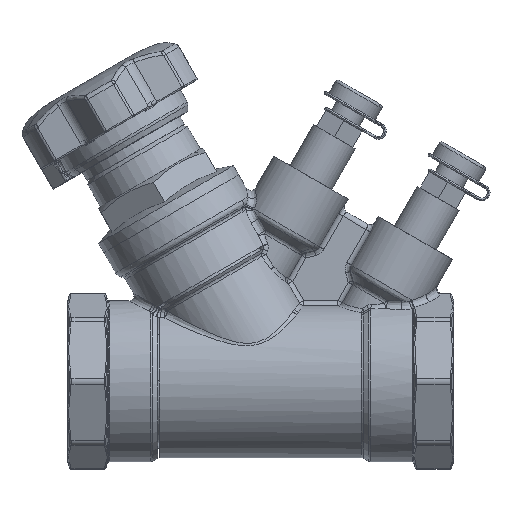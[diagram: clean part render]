
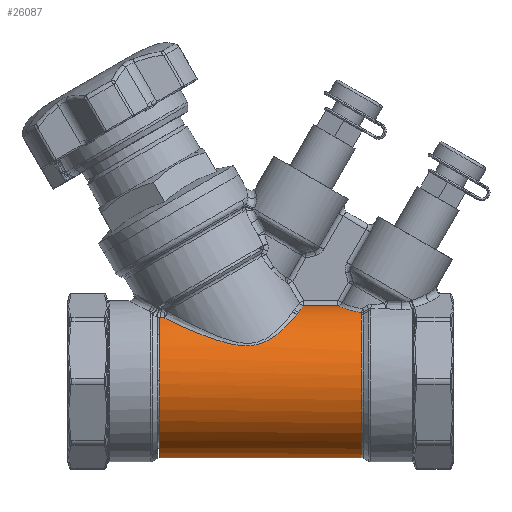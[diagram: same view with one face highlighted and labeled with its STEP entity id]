
A CAD part, left-side view. The second image highlights one B-rep face of the part: STEP entity #26087.
In plain terms, the highlighted cylindrical face has radius 28.5 mm (diameter 57 mm), a partial arc.
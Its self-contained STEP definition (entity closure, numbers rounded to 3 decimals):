
#645 = AXIS2_PLACEMENT_3D ( 'NONE', #33581, #792, #39078 ) ;
#792 = DIRECTION ( 'NONE',  ( 0., 1., 0. ) ) ;
#1673 = ORIENTED_EDGE ( 'NONE', *, *, #36629, .F. ) ;
#2476 = CARTESIAN_POINT ( 'NONE',  ( -24.157, 87.972, 15.174 ) ) ;
#2708 = CARTESIAN_POINT ( 'NONE',  ( -16.668, 60.019, 23.213 ) ) ;
#4627 = FACE_OUTER_BOUND ( 'NONE', #45438, .T. ) ;
#6186 = CARTESIAN_POINT ( 'NONE',  ( -15.838, 108.58, 23.694 ) ) ;
#6237 = CARTESIAN_POINT ( 'NONE',  ( -13.664, 58.49, 25.011 ) ) ;
#7050 = CARTESIAN_POINT ( 'NONE',  ( 0., 109.598, 0. ) ) ;
#7173 = VERTEX_POINT ( 'NONE', #57830 ) ;
#7991 = CARTESIAN_POINT ( 'NONE',  ( -25.128, 81.677, 13.451 ) ) ;
#8233 = CARTESIAN_POINT ( 'NONE',  ( -13.664, 58.49, 25.011 ) ) ;
#10426 = EDGE_CURVE ( 'NONE', #30086, #64506, #32244, .T. ) ;
#11812 = CARTESIAN_POINT ( 'NONE',  ( -7.26, 41.821, 27.64 ) ) ;
#12572 = DIRECTION ( 'NONE',  ( -0.479, 0., 0.878 ) ) ;
#12618 = ORIENTED_EDGE ( 'NONE', *, *, #28433, .F. ) ;
#13038 = VECTOR ( 'NONE', #57467, 1000. ) ;
#13272 = CARTESIAN_POINT ( 'NONE',  ( -17.828, 105.332, 22.357 ) ) ;
#13506 = CARTESIAN_POINT ( 'NONE',  ( -25.249, 76.688, 13.219 ) ) ;
#13755 = ORIENTED_EDGE ( 'NONE', *, *, #10426, .T. ) ;
#15953 = ORIENTED_EDGE ( 'NONE', *, *, #28523, .T. ) ;
#16048 = EDGE_CURVE ( 'NONE', #50685, #26631, #43977, .T. ) ;
#17306 = CARTESIAN_POINT ( 'NONE',  ( -10.508, 38.722, 26.517 ) ) ;
#18106 = CARTESIAN_POINT ( 'NONE',  ( -3.738, 49.525, 28.254 ) ) ;
#18132 = DIRECTION ( 'NONE',  ( 0., 1., 0. ) ) ;
#19002 = CARTESIAN_POINT ( 'NONE',  ( -24.686, 71.168, 14.262 ) ) ;
#19928 = CARTESIAN_POINT ( 'NONE',  ( 0., 34.402, -28.5 ) ) ;
#21266 = EDGE_CURVE ( 'NONE', #31334, #30631, #22793, .T. ) ;
#21940 = ORIENTED_EDGE ( 'NONE', *, *, #22726, .F. ) ;
#22726 = EDGE_CURVE ( 'NONE', #33521, #31334, #37357, .T. ) ;
#22793 = B_SPLINE_CURVE_WITH_KNOTS ( 'NONE', 5,
 ( #22927, #50179, #66446, #61152, #28446, #66675 ),
 .UNSPECIFIED., .F., .F.,
 ( 6, 6 ),
 ( 0., 1. ),
 .UNSPECIFIED. ) ;
#22811 = CARTESIAN_POINT ( 'NONE',  ( -11.972, 35.753, 25.866 ) ) ;
#22927 = CARTESIAN_POINT ( 'NONE',  ( -12.096, 57.829, 25.806 ) ) ;
#24531 = CARTESIAN_POINT ( 'NONE',  ( -23.364, 67.304, 16.391 ) ) ;
#25443 = CARTESIAN_POINT ( 'NONE',  ( -15.716, 109.598, 23.775 ) ) ;
#26087 = ADVANCED_FACE ( 'NONE', ( #4627 ), #46536, .T. ) ;
#26334 = EDGE_CURVE ( 'NONE', #31937, #30086, #70531, .T. ) ;
#26631 = VERTEX_POINT ( 'NONE', #25443 ) ;
#27170 = EDGE_CURVE ( 'NONE', #7173, #30631, #40472, .T. ) ;
#27664 = LINE ( 'NONE', #41233, #13038 ) ;
#27963 = CARTESIAN_POINT ( 'NONE',  ( -13.664, 58.49, 25.011 ) ) ;
#28236 = CARTESIAN_POINT ( 'NONE',  ( -15.779, 109.088, 23.734 ) ) ;
#28343 = CARTESIAN_POINT ( 'NONE',  ( -12.412, 34.402, 25.655 ) ) ;
#28433 = EDGE_CURVE ( 'NONE', #58231, #33521, #59198, .T. ) ;
#28446 = CARTESIAN_POINT ( 'NONE',  ( -5.508, 56.052, 28.02 ) ) ;
#28523 = EDGE_CURVE ( 'NONE', #50685, #31937, #27664, .T. ) ;
#29699 = CARTESIAN_POINT ( 'NONE',  ( -12.412, 34.402, 25.655 ) ) ;
#29782 = CARTESIAN_POINT ( 'NONE',  ( -19.435, 102.39, 20.991 ) ) ;
#29853 = EDGE_CURVE ( 'NONE', #58231, #26631, #65773, .T. ) ;
#30023 = CARTESIAN_POINT ( 'NONE',  ( -21.568, 64.513, 18.662 ) ) ;
#30086 = VERTEX_POINT ( 'NONE', #48028 ) ;
#30525 = DIRECTION ( 'NONE',  ( 0., -1., 0. ) ) ;
#30631 = VERTEX_POINT ( 'NONE', #60791 ) ;
#31334 = VERTEX_POINT ( 'NONE', #54907 ) ;
#31937 = VERTEX_POINT ( 'NONE', #19928 ) ;
#32244 = CIRCLE ( 'NONE', #38119, 28.5 ) ;
#33521 = VERTEX_POINT ( 'NONE', #6237 ) ;
#33571 = CARTESIAN_POINT ( 'NONE',  ( -5.551, 42.661, 28.014 ) ) ;
#33581 = CARTESIAN_POINT ( 'NONE',  ( 0., 34.402, 0. ) ) ;
#33660 = CARTESIAN_POINT ( 'NONE',  ( -12.096, 57.829, 25.806 ) ) ;
#34304 = ORIENTED_EDGE ( 'NONE', *, *, #26334, .T. ) ;
#34997 = AXIS2_PLACEMENT_3D ( 'NONE', #52749, #30525, #35511 ) ;
#35246 = CARTESIAN_POINT ( 'NONE',  ( -22.789, 93.816, 17.251 ) ) ;
#35489 = CARTESIAN_POINT ( 'NONE',  ( -18.006, 60.939, 22.184 ) ) ;
#35511 = DIRECTION ( 'NONE',  ( 0., 0., -1. ) ) ;
#36629 = EDGE_CURVE ( 'NONE', #7173, #64506, #48633, .T. ) ;
#37079 = VECTOR ( 'NONE', #45361, 1000. ) ;
#37357 = B_SPLINE_CURVE_WITH_KNOTS ( 'NONE', 3,
 ( #27963, #49920, #66411, #33660 ),
 .UNSPECIFIED., .F., .F.,
 ( 4, 4 ),
 ( 0., 1. ),
 .UNSPECIFIED. ) ;
#38119 = AXIS2_PLACEMENT_3D ( 'NONE', #50880, #18132, #56346 ) ;
#38127 = ORIENTED_EDGE ( 'NONE', *, *, #16048, .F. ) ;
#39078 = DIRECTION ( 'NONE',  ( -0.479, 0., 0.878 ) ) ;
#40472 = LINE ( 'NONE', #18106, #37079 ) ;
#40752 = CARTESIAN_POINT ( 'NONE',  ( -24.627, 85.411, 14.376 ) ) ;
#40988 = CARTESIAN_POINT ( 'NONE',  ( -15.216, 59.202, 24.163 ) ) ;
#41233 = CARTESIAN_POINT ( 'NONE',  ( 0., 109.598, -28.5 ) ) ;
#43977 = CIRCLE ( 'NONE', #51245, 28.5 ) ;
#45324 = DIRECTION ( 'NONE',  ( 0., 1., 0. ) ) ;
#45361 = DIRECTION ( 'NONE',  ( 0., 1., 0. ) ) ;
#45438 = EDGE_LOOP ( 'NONE', ( #38127, #15953, #34304, #13755, #1673, #67313, #62791, #21940, #12618, #53662 ) ) ;
#46274 = CARTESIAN_POINT ( 'NONE',  ( -25.25, 77.809, 13.217 ) ) ;
#46536 = CYLINDRICAL_SURFACE ( 'NONE', #34997, 28.5 ) ;
#47970 = CARTESIAN_POINT ( 'NONE',  ( -15.893, 108.075, 23.657 ) ) ;
#48028 = CARTESIAN_POINT ( 'NONE',  ( -13.664, 34.402, 25.011 ) ) ;
#48633 = B_SPLINE_CURVE_WITH_KNOTS ( 'NONE', 5,
 ( #66334, #33571, #11812, #50065, #17306, #55525, #22811, #61031, #28343 ),
 .UNSPECIFIED., .F., .F.,
 ( 6, 3, 6 ),
 ( 0., 0.729, 1. ),
 .UNSPECIFIED. ) ;
#49920 = CARTESIAN_POINT ( 'NONE',  ( -13.153, 58.255, 25.29 ) ) ;
#50065 = CARTESIAN_POINT ( 'NONE',  ( -8.782, 40.675, 27.168 ) ) ;
#50179 = CARTESIAN_POINT ( 'NONE',  ( -10.559, 57.237, 26.526 ) ) ;
#50685 = VERTEX_POINT ( 'NONE', #62670 ) ;
#50880 = CARTESIAN_POINT ( 'NONE',  ( 0., 34.402, 0. ) ) ;
#51245 = AXIS2_PLACEMENT_3D ( 'NONE', #7050, #45324, #12572 ) ;
#51754 = CARTESIAN_POINT ( 'NONE',  ( -25.13, 73.869, 13.449 ) ) ;
#52749 = CARTESIAN_POINT ( 'NONE',  ( 0., 109.598, 0. ) ) ;
#53662 = ORIENTED_EDGE ( 'NONE', *, *, #29853, .T. ) ;
#54907 = CARTESIAN_POINT ( 'NONE',  ( -12.096, 57.829, 25.806 ) ) ;
#55209 = CARTESIAN_POINT ( 'NONE',  ( -15.893, 108.075, 23.657 ) ) ;
#55525 = CARTESIAN_POINT ( 'NONE',  ( -11.692, 36.404, 25.994 ) ) ;
#56346 = DIRECTION ( 'NONE',  ( -0.436, 0., 0.9 ) ) ;
#57231 = CARTESIAN_POINT ( 'NONE',  ( -24.273, 69.647, 14.98 ) ) ;
#57467 = DIRECTION ( 'NONE',  ( 0., -1., 0. ) ) ;
#57830 = CARTESIAN_POINT ( 'NONE',  ( -3.738, 43.181, 28.254 ) ) ;
#58231 = VERTEX_POINT ( 'NONE', #47970 ) ;
#59198 = B_SPLINE_CURVE_WITH_KNOTS ( 'NONE', 5,
 ( #62254, #13272, #29782, #68027, #35246, #2476, #40752, #7991, #46274, #13506, #51754, #19002, #57231, #24531, #62722, #30023, #68259, #35489, #2708, #40988, #8233 ),
 .UNSPECIFIED., .F., .F.,
 ( 6, 3, 3, 3, 3, 3, 6 ),
 ( 0., 0.298, 0.521, 0.611, 0.748, 0.843, 1. ),
 .UNSPECIFIED. ) ;
#60791 = CARTESIAN_POINT ( 'NONE',  ( -3.738, 55.87, 28.254 ) ) ;
#61031 = CARTESIAN_POINT ( 'NONE',  ( -12.212, 35.084, 25.752 ) ) ;
#61152 = CARTESIAN_POINT ( 'NONE',  ( -7.249, 56.343, 27.648 ) ) ;
#62254 = CARTESIAN_POINT ( 'NONE',  ( -15.893, 108.075, 23.657 ) ) ;
#62670 = CARTESIAN_POINT ( 'NONE',  ( 0., 109.598, -28.5 ) ) ;
#62722 = CARTESIAN_POINT ( 'NONE',  ( -22.126, 65.287, 17.994 ) ) ;
#62791 = ORIENTED_EDGE ( 'NONE', *, *, #21266, .F. ) ;
#64506 = VERTEX_POINT ( 'NONE', #29699 ) ;
#65773 = B_SPLINE_CURVE_WITH_KNOTS ( 'NONE', 3,
 ( #55209, #6186, #28236, #66461 ),
 .UNSPECIFIED., .F., .F.,
 ( 4, 4 ),
 ( 0., 1. ),
 .UNSPECIFIED. ) ;
#66334 = CARTESIAN_POINT ( 'NONE',  ( -3.738, 43.181, 28.254 ) ) ;
#66411 = CARTESIAN_POINT ( 'NONE',  ( -12.63, 58.035, 25.555 ) ) ;
#66446 = CARTESIAN_POINT ( 'NONE',  ( -8.939, 56.74, 27.146 ) ) ;
#66461 = CARTESIAN_POINT ( 'NONE',  ( -15.716, 109.598, 23.775 ) ) ;
#66675 = CARTESIAN_POINT ( 'NONE',  ( -3.738, 55.87, 28.254 ) ) ;
#67313 = ORIENTED_EDGE ( 'NONE', *, *, #27170, .T. ) ;
#68027 = CARTESIAN_POINT ( 'NONE',  ( -20.791, 99.335, 19.621 ) ) ;
#68259 = CARTESIAN_POINT ( 'NONE',  ( -19.954, 62.577, 20.445 ) ) ;
#70531 = CIRCLE ( 'NONE', #645, 28.5 ) ;
